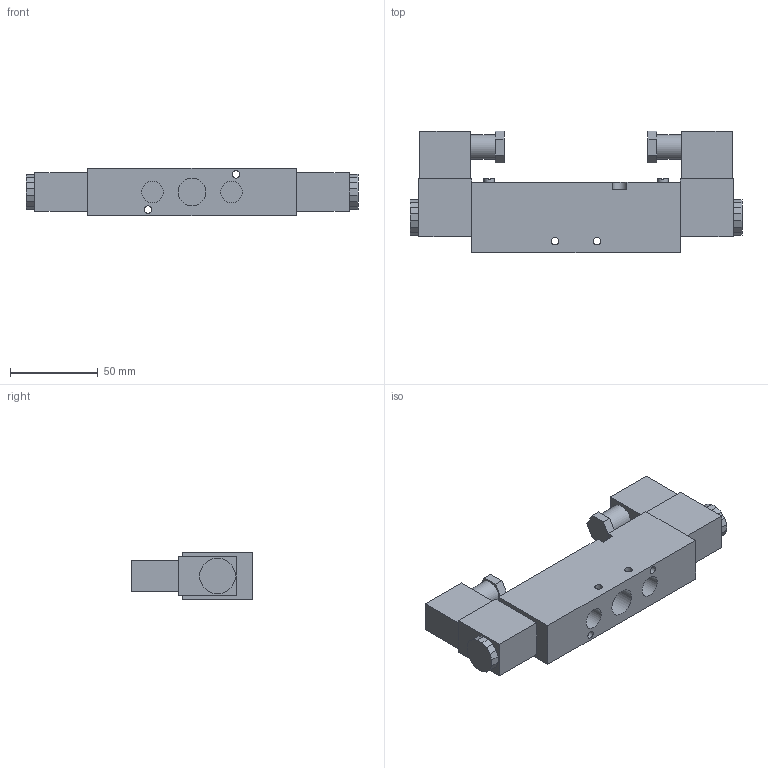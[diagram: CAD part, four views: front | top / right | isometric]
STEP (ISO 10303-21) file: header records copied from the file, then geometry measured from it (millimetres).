
FILE_DESCRIPTION(('STEP AP203'), '1');
FILE_NAME('4V320-10 AC220V 砅槻斁譇厴謥麧錒蠈錪 DN.RU', '2026-04-21T18:46:01', ('R2D2'), (''), 'C3D Converter', 'C3D Toolkit', '');
FILE_SCHEMA(('CONFIG_CONTROL_DESIGN'));
Length unit declared in the file: millimetre
Products named in the file (1): 4V320-10 AC220V
Bounding box: 188.8 x 69 x 27 mm (x, y, z)
Volume: 197608.1 mm3; surface area: 37068.2 mm2
Topology: 1 solids, 1 shells, 114 faces, 287 edges, 190 vertices
Faces by surface type: plane 99, cylinder 15
Full cylindrical faces by diameter (mm): 4.3 x4, 6 x2, 12.3 x2, 14 x2, 15.8 x3
Entity records: 3711 total; most frequent: CARTESIAN_POINT 579, ORIENTED_EDGE 548, DIRECTION 542, EDGE_CURVE 274, LINE 236, VECTOR 236, VERTEX_POINT 190, AXIS2_PLACEMENT_3D 153
